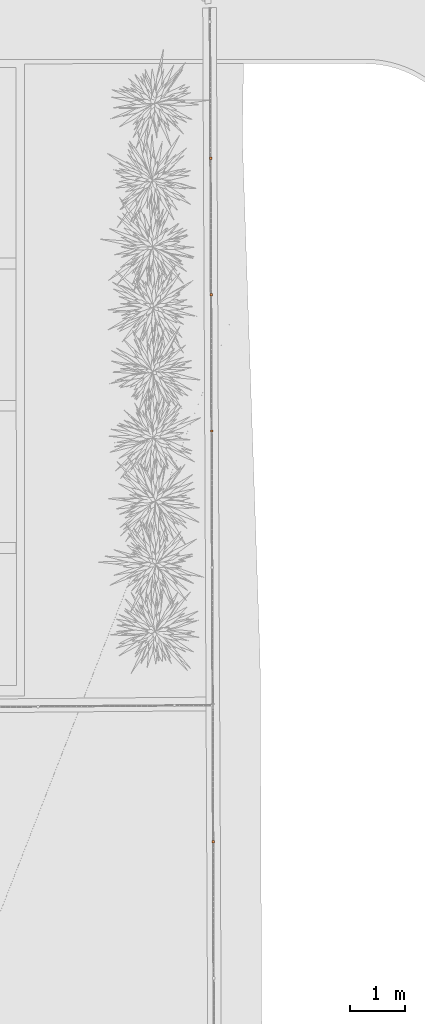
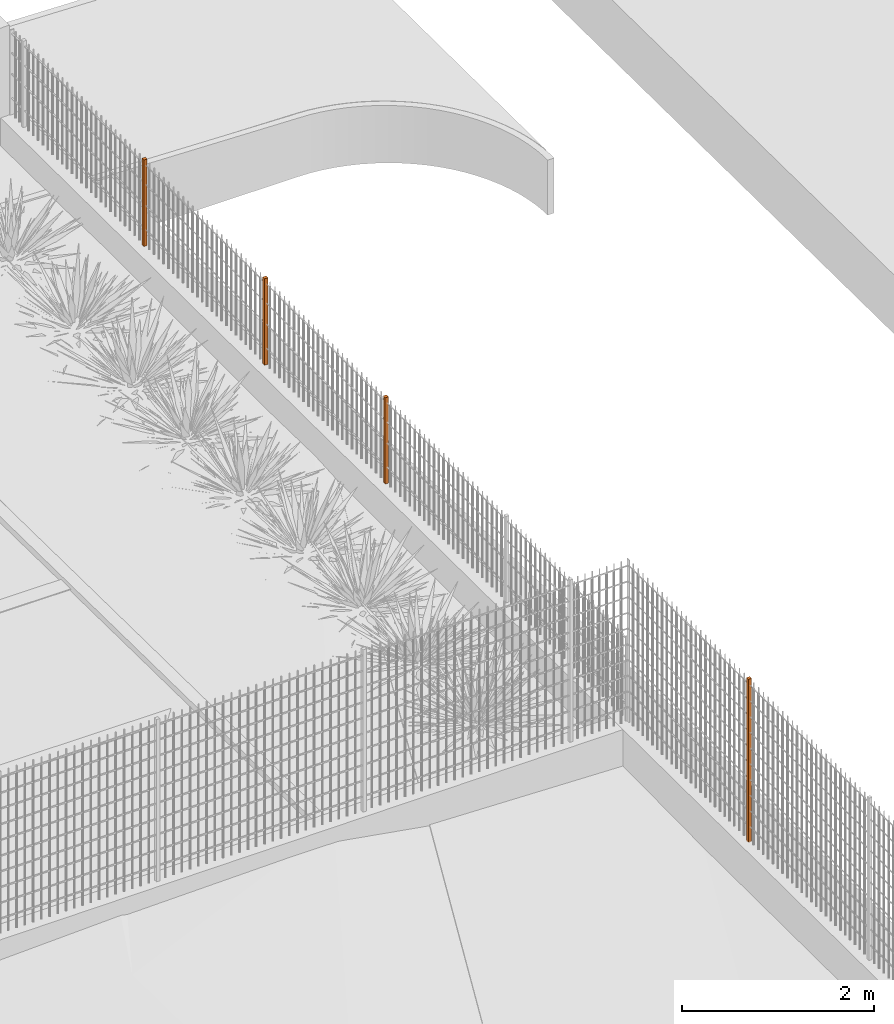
# One storey, part 17 of 1809: 4 proxies, 2 elements without a shape of their own.
"""IFC2X3 building model written with IfcOpenShell, lengths in millimetres."""

from ifc_helpers import new_model, entity, si_unit, converted_unit, derived_unit, money_unit, direction, frame, origin_with_axes, place, context, subcontext, project, spatial, faceted_brep, source, transform, mapped, material, type_object, element, aggregate, save


model = new_model("IFC2X3")

# Units and contexts
model_context = context("Model", 3, precision=0.01, world=origin_with_axes(), true_north=direction((0.0, 1.0)))
body_context = subcontext(model_context, "Body", "Model", "MODEL_VIEW")
ifc_project = project(units=[si_unit("LENGTHUNIT", "METRE", prefix="MILLI"), si_unit("AREAUNIT", "SQUARE_METRE"), si_unit("VOLUMEUNIT", "CUBIC_METRE"), converted_unit("PLANEANGLEUNIT", "DEGREE", entity("IfcPlaneAngleMeasure", 0.0174532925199), si_unit("PLANEANGLEUNIT", "RADIAN"), dimensions=[0, 0, 0, 0, 0, 0, 0]), si_unit("SOLIDANGLEUNIT", "STERADIAN"), money_unit("EUR"), converted_unit("TIMEUNIT", "Year", entity("IfcTimeMeasure", 31556926.0), si_unit("TIMEUNIT", "SECOND"), dimensions=[0, 0, 1, 0, 0, 0, 0]), si_unit("MASSUNIT", "GRAM", prefix="KILO"), si_unit("THERMODYNAMICTEMPERATUREUNIT", "DEGREE_CELSIUS"), si_unit("LUMINOUSINTENSITYUNIT", "LUMEN"), si_unit("ENERGYUNIT", "JOULE", prefix="MEGA"), derived_unit("THERMALCONDUCTANCEUNIT", [(si_unit("POWERUNIT", "WATT"), 1), (si_unit("LENGTHUNIT", "METRE"), -1), (si_unit("THERMODYNAMICTEMPERATUREUNIT", "KELVIN"), -1)]), derived_unit("SPECIFICHEATCAPACITYUNIT", [(si_unit("ENERGYUNIT", "JOULE"), 1), (si_unit("MASSUNIT", "GRAM", prefix="KILO"), -1), (si_unit("THERMODYNAMICTEMPERATUREUNIT", "KELVIN"), -1)]), derived_unit("MASSDENSITYUNIT", [(si_unit("MASSUNIT", "GRAM", prefix="KILO"), 1), (si_unit("VOLUMEUNIT", "CUBIC_METRE"), -1)])], contexts=[model_context])

# Site, building, storey
site_placement = place(None, origin_with_axes())
site = spatial("IfcSite", under=ifc_project, at=site_placement, Name="Politse- ja Piirivalveameti ning Päästeameti ühishoone", CompositionType="ELEMENT")
building_placement = place(site_placement, origin_with_axes())
building = spatial("IfcBuilding", under=site, at=building_placement, Name="Politse- ja Piirivalveameti ning Päästeameti ühishoone", CompositionType="ELEMENT")
storey_placement = place(building_placement, origin_with_axes())
storey = spatial("IfcBuildingStorey", under=building, at=storey_placement, Name="Esimene korrus", CompositionType="ELEMENT", Elevation=0.0)

# Proxies
building_element_proxy_type_1 = type_object("IfcBuildingElementProxyType", Name="Railing Type", PredefinedType="NOTDEFINED")
proxy_1_placement = place(storey_placement, frame((89043.651518, -14151.4414674, 177.658425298), z_axis=(0.0, 0.0, 1.0), x_axis=(1.0, 0.0, 0.0)))
proxy_1 = element("IfcBuildingElementProxy", 1, at=proxy_1_placement, inside=storey, type_object=building_element_proxy_type_1, Name="PIIRDEAED")
ifc_material = material(Name="ET-03_Raud")
building_element_proxy_type_2 = type_object("IfcBuildingElementProxyType", Name="IfcBuildingElementProxy", PredefinedType="NOTDEFINED")
shared_shape_1 = source(origin_with_axes(), body_context, "Body", "Brep", [
    faceted_brep([(20.0, 20.0, 0.0), (-20.0, 20.0, 0.0), (-20.0, 20.0, 1100.0), (20.0, 20.0, 1100.0), (20.0, -20.0, 0.0), (-20.0, -20.0, 0.0), (-20.0, -20.0, 1100.0), (20.0, -20.0, 1100.0)], [[[0, 1, 2, 3]], [[0, 4, 5, 1]], [[1, 5, 6, 2]], [[3, 2, 6, 7]], [[4, 0, 3, 7]], [[5, 4, 7, 6]]]),
])
proxy_2_placement = place(proxy_1_placement, frame((154.742105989, 18941.2563856, 0.0), z_axis=(0.0, 0.0, 1.0), x_axis=(1.0, 0.0, 0.0)))
proxy_2 = element("IfcBuildingElementProxy", 2, at=proxy_2_placement, type_object=building_element_proxy_type_2, material=ifc_material, Name="SISEPOST - 001", context=body_context, shape_type="MappedRepresentation", body=[
    mapped(shared_shape_1, transform((0.0, 0.0, 0.0), x_axis=(0.999992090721, 0.00397724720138, 0.0), y_axis=(-0.00397724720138, 0.999992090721, 0.0), z_axis=(0.0, 0.0, 1.0))),
])
proxy_3_placement = place(proxy_1_placement, frame((144.798987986, 21441.2366124, 0.0), z_axis=(0.0, 0.0, 1.0), x_axis=(1.0, 0.0, 0.0)))
proxy_3 = element("IfcBuildingElementProxy", 3, at=proxy_3_placement, type_object=building_element_proxy_type_2, material=ifc_material, Name="SISEPOST - 001", context=body_context, shape_type="MappedRepresentation", body=[
    mapped(shared_shape_1, transform((0.0, 0.0, 0.0), x_axis=(0.999992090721, 0.00397724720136, 0.0), y_axis=(-0.00397724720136, 0.999992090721, 0.0), z_axis=(0.0, 0.0, 1.0))),
])
proxy_4_placement = place(proxy_1_placement, frame((134.855869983, 23941.2168392, 0.0), z_axis=(0.0, 0.0, 1.0), x_axis=(1.0, 0.0, 0.0)))
proxy_4 = element("IfcBuildingElementProxy", 4, at=proxy_4_placement, type_object=building_element_proxy_type_2, material=ifc_material, Name="SISEPOST - 001", context=body_context, shape_type="MappedRepresentation", body=[
    mapped(shared_shape_1, transform((0.0, 0.0, 0.0), x_axis=(0.999992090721, 0.00397724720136, 0.0), y_axis=(-0.00397724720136, 0.999992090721, 0.0), z_axis=(0.0, 0.0, 1.0))),
])
aggregate(proxy_1, [proxy_2, proxy_3, proxy_4])

proxy_5_placement = place(storey_placement, frame((89104.1814532, -600.085881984, 164.131942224), z_axis=(0.0, 0.0, 1.0), x_axis=(1.0, 0.0, 0.0)))
proxy_5 = element("IfcBuildingElementProxy", 5, at=proxy_5_placement, inside=storey, type_object=building_element_proxy_type_1, Name="PIIRDEAED")
shared_shape_2 = source(origin_with_axes(), body_context, "Body", "Brep", [
    faceted_brep([(20.0, 20.0, 0.0), (-20.0, 20.0, 0.0), (-20.0, 20.0, 2080.0), (20.0, 20.0, 2080.0), (20.0, -20.0, 0.0), (-20.0, -20.0, 0.0), (-20.0, -20.0, 2080.0), (20.0, -20.0, 2080.0)], [[[0, 1, 2, 3]], [[0, 4, 5, 1]], [[1, 5, 6, 2]], [[3, 2, 6, 7]], [[4, 0, 3, 7]], [[5, 4, 7, 6]]]),
])
proxy_6_placement = place(proxy_5_placement, frame((122.503998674, -2135.0459398, 0.0), z_axis=(0.0, 0.0, 1.0), x_axis=(1.0, 0.0, 0.0)))
proxy_6 = element("IfcBuildingElementProxy", 6, at=proxy_6_placement, type_object=building_element_proxy_type_2, material=ifc_material, Name="SISEPOST - 001", context=body_context, shape_type="MappedRepresentation", body=[
    mapped(shared_shape_2, transform((0.0, 0.0, 0.0), x_axis=(-0.999994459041, -0.00332894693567, 0.0), y_axis=(0.00332894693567, -0.999994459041, 0.0), z_axis=(0.0, 0.0, 1.0))),
])
aggregate(proxy_5, [proxy_6])

save(model, "model.ifc")
